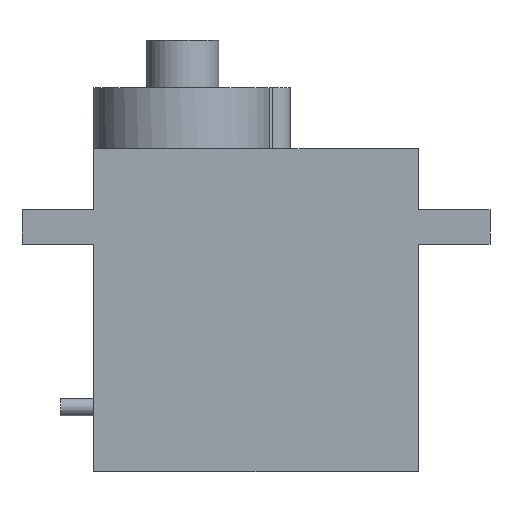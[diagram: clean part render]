
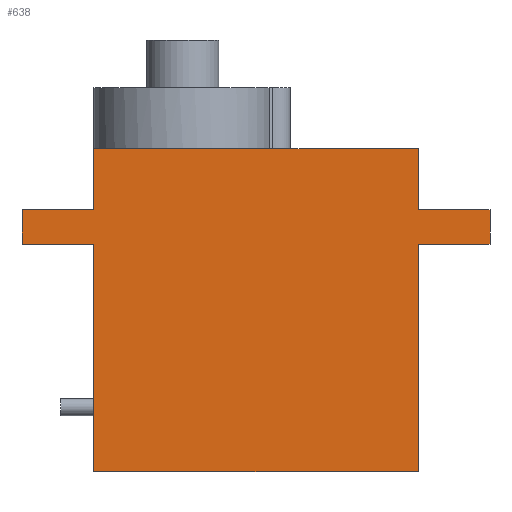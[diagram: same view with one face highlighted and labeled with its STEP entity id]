
A CAD part, front view. The second image highlights one B-rep face of the part: STEP entity #638.
In plain terms, the highlighted planar face has unit normal (0, -1, 0).
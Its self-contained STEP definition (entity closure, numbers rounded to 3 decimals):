
#41=FACE_OUTER_BOUND('',#81,.T.);
#81=EDGE_LOOP('',(#463,#464,#465,#466,#467,#468,#469,#470,#471,#472,#473,
#474,#475));
#116=LINE('',#957,#183);
#119=LINE('',#965,#186);
#123=LINE('',#974,#190);
#128=LINE('',#984,#195);
#132=LINE('',#993,#199);
#135=LINE('',#1001,#202);
#147=LINE('',#1021,#214);
#148=LINE('',#1023,#215);
#149=LINE('',#1024,#216);
#150=LINE('',#1025,#217);
#151=LINE('',#1026,#218);
#152=LINE('',#1027,#219);
#153=LINE('',#1028,#220);
#183=VECTOR('',#762,6.2);
#186=VECTOR('',#767,2.4);
#190=VECTOR('',#773,2.4);
#195=VECTOR('',#780,15.85);
#199=VECTOR('',#786,4.25);
#202=VECTOR('',#791,15.85);
#214=VECTOR('',#807,4.25);
#215=VECTOR('',#810,22.6);
#216=VECTOR('',#811,5.);
#217=VECTOR('',#812,5.);
#218=VECTOR('',#813,16.4);
#219=VECTOR('',#814,5.);
#220=VECTOR('',#815,5.);
#273=VERTEX_POINT('',#953);
#274=VERTEX_POINT('',#955);
#277=VERTEX_POINT('',#962);
#278=VERTEX_POINT('',#964);
#281=VERTEX_POINT('',#971);
#282=VERTEX_POINT('',#973);
#284=VERTEX_POINT('',#978);
#286=VERTEX_POINT('',#982);
#288=VERTEX_POINT('',#987);
#290=VERTEX_POINT('',#991);
#293=VERTEX_POINT('',#998);
#294=VERTEX_POINT('',#1000);
#300=VERTEX_POINT('',#1019);
#334=EDGE_CURVE('',#274,#273,#116,.T.);
#337=EDGE_CURVE('',#278,#277,#119,.T.);
#341=EDGE_CURVE('',#282,#281,#123,.T.);
#346=EDGE_CURVE('',#284,#286,#128,.T.);
#350=EDGE_CURVE('',#290,#288,#132,.T.);
#353=EDGE_CURVE('',#293,#294,#135,.T.);
#365=EDGE_CURVE('',#274,#300,#147,.T.);
#366=EDGE_CURVE('',#286,#294,#148,.T.);
#367=EDGE_CURVE('',#293,#278,#149,.T.);
#368=EDGE_CURVE('',#277,#288,#150,.T.);
#369=EDGE_CURVE('',#273,#290,#151,.T.);
#370=EDGE_CURVE('',#300,#282,#152,.T.);
#371=EDGE_CURVE('',#281,#284,#153,.T.);
#463=ORIENTED_EDGE('',*,*,#366,.T.);
#464=ORIENTED_EDGE('',*,*,#353,.F.);
#465=ORIENTED_EDGE('',*,*,#367,.T.);
#466=ORIENTED_EDGE('',*,*,#337,.T.);
#467=ORIENTED_EDGE('',*,*,#368,.T.);
#468=ORIENTED_EDGE('',*,*,#350,.F.);
#469=ORIENTED_EDGE('',*,*,#369,.F.);
#470=ORIENTED_EDGE('',*,*,#334,.F.);
#471=ORIENTED_EDGE('',*,*,#365,.T.);
#472=ORIENTED_EDGE('',*,*,#370,.T.);
#473=ORIENTED_EDGE('',*,*,#341,.T.);
#474=ORIENTED_EDGE('',*,*,#371,.T.);
#475=ORIENTED_EDGE('',*,*,#346,.T.);
#608=PLANE('',#697);
#638=ADVANCED_FACE('',(#41),#608,.F.);
#697=AXIS2_PLACEMENT_3D('',#1022,#808,#809);
#762=DIRECTION('',(1.,0.,0.));
#767=DIRECTION('',(0.,0.,1.));
#773=DIRECTION('',(0.,0.,-1.));
#780=DIRECTION('',(0.,0.,-1.));
#786=DIRECTION('',(0.,0.,-1.));
#791=DIRECTION('',(0.,0.,-1.));
#807=DIRECTION('',(0.,0.,-1.));
#808=DIRECTION('center_axis',(0.,1.,0.));
#809=DIRECTION('ref_axis',(0.,0.,1.));
#810=DIRECTION('',(1.,0.,0.));
#811=DIRECTION('',(1.,0.,0.));
#812=DIRECTION('',(-1.,0.,0.));
#813=DIRECTION('',(1.,0.,0.));
#814=DIRECTION('',(-1.,0.,0.));
#815=DIRECTION('',(1.,0.,0.));
#953=CARTESIAN_POINT('',(-5.1,-6.2,22.5));
#955=CARTESIAN_POINT('',(-11.3,-6.2,22.5));
#957=CARTESIAN_POINT('',(-11.3,-6.2,22.5));
#962=CARTESIAN_POINT('',(16.3,-6.2,18.25));
#964=CARTESIAN_POINT('',(16.3,-6.2,15.85));
#965=CARTESIAN_POINT('',(16.3,-6.2,15.85));
#971=CARTESIAN_POINT('',(-16.3,-6.2,15.85));
#973=CARTESIAN_POINT('',(-16.3,-6.2,18.25));
#974=CARTESIAN_POINT('',(-16.3,-6.2,18.25));
#978=CARTESIAN_POINT('',(-11.3,-6.2,15.85));
#982=CARTESIAN_POINT('',(-11.3,-6.2,0.));
#984=CARTESIAN_POINT('',(-11.3,-6.2,15.85));
#987=CARTESIAN_POINT('',(11.3,-6.2,18.25));
#991=CARTESIAN_POINT('',(11.3,-6.2,22.5));
#993=CARTESIAN_POINT('',(11.3,-6.2,22.5));
#998=CARTESIAN_POINT('',(11.3,-6.2,15.85));
#1000=CARTESIAN_POINT('',(11.3,-6.2,0.));
#1001=CARTESIAN_POINT('',(11.3,-6.2,15.85));
#1019=CARTESIAN_POINT('',(-11.3,-6.2,18.25));
#1021=CARTESIAN_POINT('',(-11.3,-6.2,22.5));
#1022=CARTESIAN_POINT('Origin',(-11.3,-6.2,22.5));
#1023=CARTESIAN_POINT('',(-11.3,-6.2,0.));
#1024=CARTESIAN_POINT('',(11.3,-6.2,15.85));
#1025=CARTESIAN_POINT('',(16.3,-6.2,18.25));
#1026=CARTESIAN_POINT('',(-5.1,-6.2,22.5));
#1027=CARTESIAN_POINT('',(-11.3,-6.2,18.25));
#1028=CARTESIAN_POINT('',(-16.3,-6.2,15.85));
